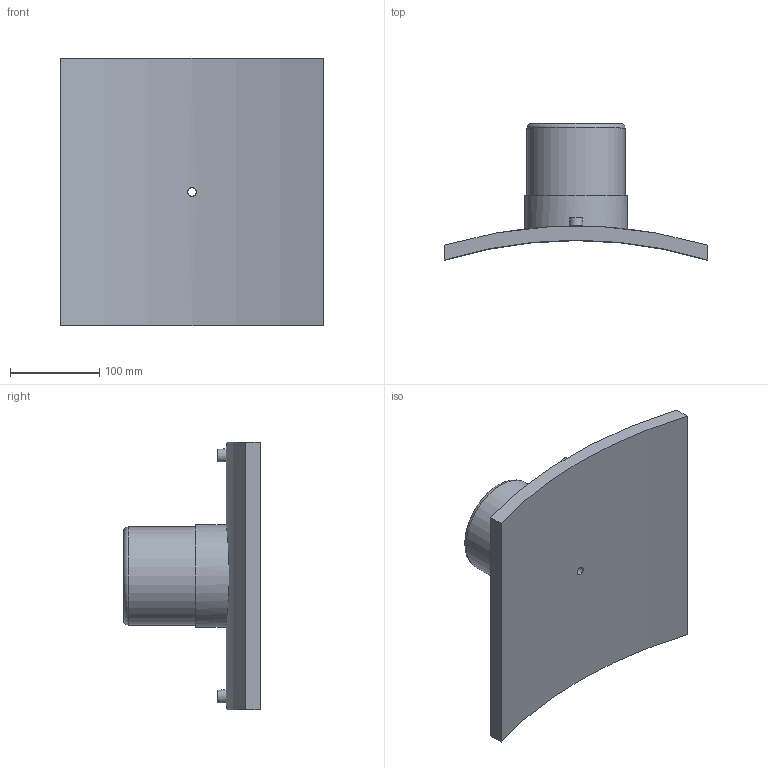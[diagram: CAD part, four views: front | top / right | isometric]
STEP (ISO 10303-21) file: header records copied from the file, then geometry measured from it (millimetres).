
FILE_DESCRIPTION(/* description */ ('PLASSON BRANCH SADDLE 1000x110'),/* implementation_level */ '2;1');
FILE_NAME(/* name */ 'C:\Dropbox\99-16-3568-Processing\ElectroFusion Fittings\495803\4958031000110T.ipt.stp',/* time_stamp */ '2021-02-25T09:42:46+02:00',/* author */ ('KIM'),/* organization */ (''),/* preprocessor_version */ 'ST-DEVELOPER v17.2',/* originating_system */ 'Autodesk Inventor 2019',/* authorisation */ '');
FILE_SCHEMA (('AUTOMOTIVE_DESIGN { 1 0 10303 214 3 1 1 }'));
Length unit declared in the file: millimetre
Products named in the file (1): 4958031000110T
Bounding box: 295 x 153.25 x 300 mm (x, y, z)
Volume: 1873675.3 mm3; surface area: 277773.9 mm2
Topology: 1 solids, 1 shells, 29 faces, 60 edges, 43 vertices
Faces by surface type: plane 13, cylinder 12, torus 2, cone 2
Full cylindrical faces by diameter (mm): 4 x2, 9.6 x1, 10 x2, 16 x1, 88 x1, 110 x1, 115.5 x1
Entity records: 1086 total; most frequent: CARTESIAN_POINT 400, DIRECTION 139, ORIENTED_EDGE 120, EDGE_CURVE 60, AXIS2_PLACEMENT_3D 60, VERTEX_POINT 43, EDGE_LOOP 41, CIRCLE 30
